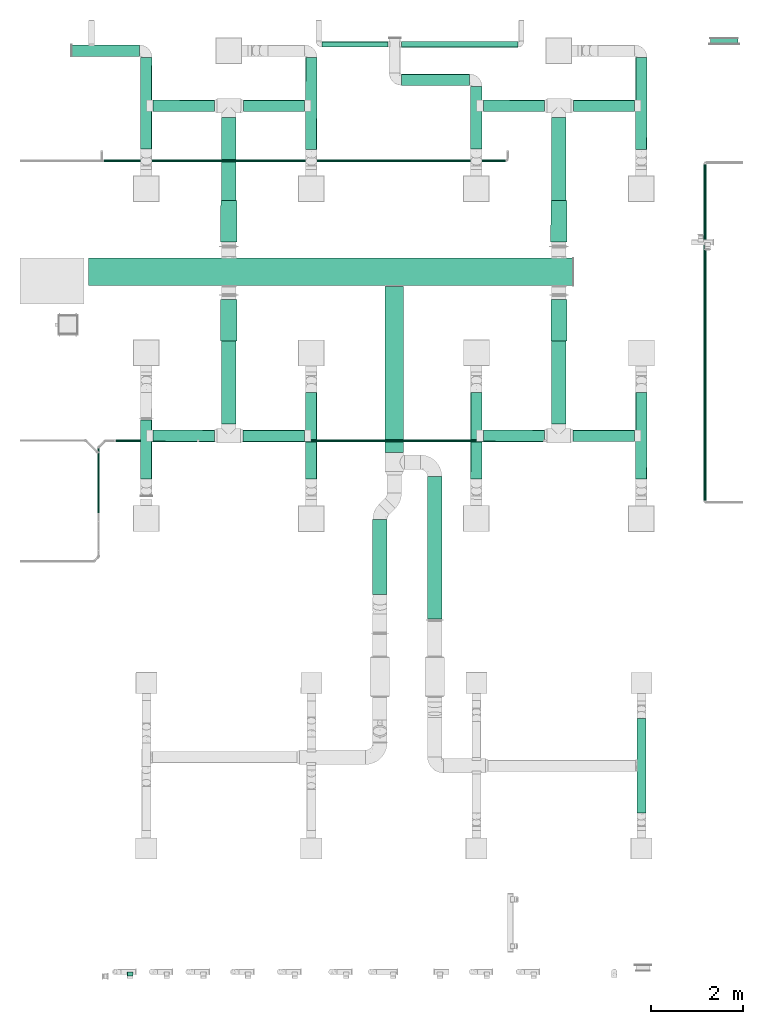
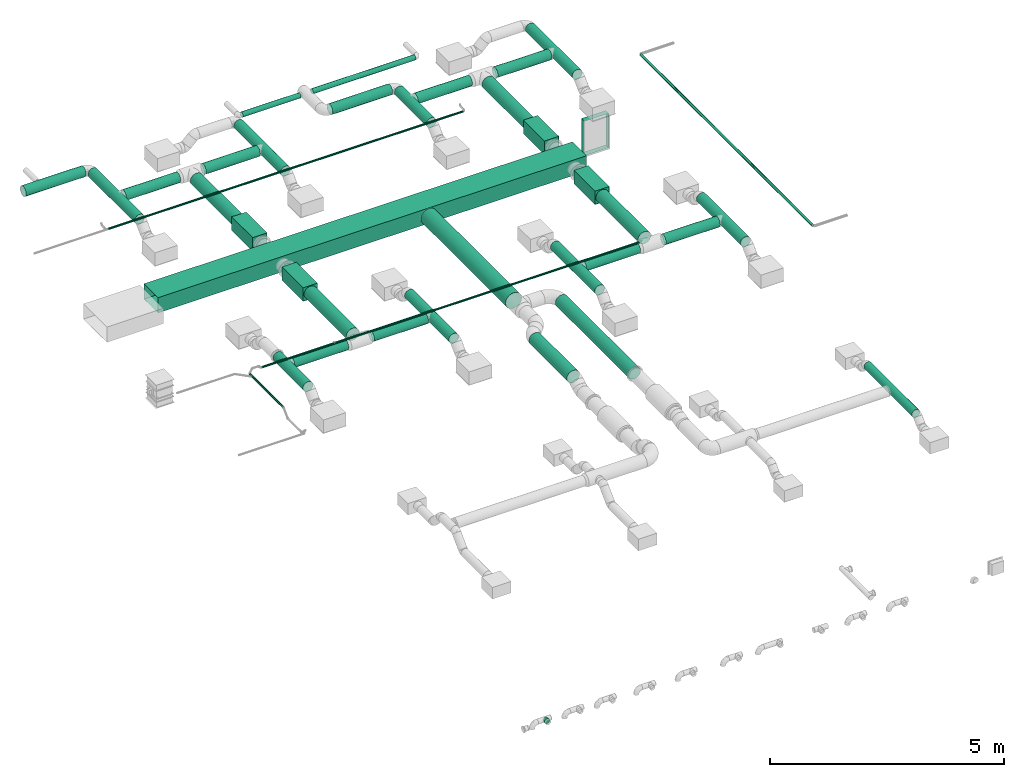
# One storey, part 3 of 63: 34 flow segments, 4 flow treatment devices, 1 flow fitting.
"""IFC2X3 building model written with IfcOpenShell, lengths in millimetres."""

from ifc_helpers import new_model, entity, si_unit, converted_unit, derived_unit, direction, frame, origin_with_axes, origin_2d_with_axis, place, context, subcontext, project, spatial, hollow_rectangle, hollow_circle, extrude, open_shell, surface_model, source, transform, mapped, type_object, element, save


model = new_model("IFC2X3")

# Units and contexts
model_context = context("Model", 3, precision=0.01, world=frame((0.0, 4.29681676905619e-09, 0.0)), true_north=direction((4.01073788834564e-13, 1.0)))
plan_context = context("Plan", 3, precision=0.01, world=frame((0.0, 4.29681676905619e-09, 0.0)), true_north=direction((4.01073788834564e-13, 1.0)))
body_context = subcontext(model_context, "Body", "Model", "MODEL_VIEW")
ifc_project = project(units=[converted_unit("PLANEANGLEUNIT", "DEGREE", entity("IfcPositiveLengthMeasure", 0.0174532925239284), si_unit("PLANEANGLEUNIT", "RADIAN"), dimensions=[0, 0, 0, 0, 0, 0, 0]), si_unit("AREAUNIT", "SQUARE_METRE"), si_unit("LENGTHUNIT", "METRE", prefix="MILLI"), si_unit("MASSUNIT", "GRAM", prefix="KILO"), si_unit("POWERUNIT", "WATT"), si_unit("PRESSUREUNIT", "PASCAL"), si_unit("FORCEUNIT", "NEWTON", prefix="KILO"), si_unit("ELECTRICVOLTAGEUNIT", "VOLT"), si_unit("ELECTRICCURRENTUNIT", "AMPERE"), si_unit("THERMODYNAMICTEMPERATUREUNIT", "DEGREE_CELSIUS"), si_unit("TIMEUNIT", "SECOND"), si_unit("VOLUMEUNIT", "CUBIC_METRE"), derived_unit("LINEARVELOCITYUNIT", [(si_unit("LENGTHUNIT", "METRE"), 1), (si_unit("TIMEUNIT", "SECOND"), -1)]), derived_unit("VOLUMETRICFLOWRATEUNIT", [(si_unit("VOLUMEUNIT", "CUBIC_METRE"), 1), (si_unit("TIMEUNIT", "SECOND"), -1)]), derived_unit("THERMALTRANSMITTANCEUNIT", [(si_unit("POWERUNIT", "WATT"), 1), (si_unit("THERMODYNAMICTEMPERATUREUNIT", "KELVIN"), -1), (si_unit("AREAUNIT", "SQUARE_METRE"), -1)]), derived_unit("SOUNDPRESSUREUNIT", [(si_unit("PRESSUREUNIT", "PASCAL"), 1)])], contexts=[model_context, plan_context])

# Site, building, storey
site_placement = place(None, frame((0.0, -4.29681676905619e-09, 0.0), z_axis=(0.0, 0.0, 1.0), x_axis=(1.0, 0.0, 0.0)))
site = spatial("IfcSite", under=ifc_project, at=site_placement, CompositionType="ELEMENT")
building_placement = place(site_placement, frame((0.0, 4.29681676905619e-09, 0.0), z_axis=(0.0, 0.0, 1.0), x_axis=(1.0, 0.0, 0.0)))
building = spatial("IfcBuilding", under=site, at=building_placement, Name="mc-building", CompositionType="ELEMENT")
storey_placement = place(building_placement, frame((0.0, 0.0, 210900.0), z_axis=(0.0, 0.0, 1.0), x_axis=(1.0, 0.0, 0.0)))
storey = spatial("IfcBuildingStorey", under=building, at=storey_placement, Name="Nivå F", CompositionType="ELEMENT", Elevation=210900.0)

# Flow fitting
duct_fitting_type = type_object("IfcDuctFittingType", Name="magicirc_tapoutlet_001", PredefinedType="CONNECTOR")
shared_shape_1 = source(origin_with_axes(), body_context, "Body", "SurfaceModel", [
    surface_model("IfcShellBasedSurfaceModel", [(25.0, 0.0, -62.5), (25.0, -31.25, -54.12659), (25.0, -16.17619, -60.37037), (25.0, 44.19417, -44.19417), (25.0, 62.5, 0.0), (25.0, 31.25, -54.12659), (25.0, 54.12659, -31.25), (25.0, -62.5, 0.0), (25.0, -60.37037, -16.17619), (25.0, -60.37037, 16.17619), (25.0, 16.17619, -60.37037), (25.0, -44.19417, -44.19417), (25.0, -54.12659, -31.25), (25.0, 60.37037, -16.17619), (25.0, 60.37037, 16.17619), (25.0, 54.12659, 31.25), (25.0, 44.19417, 44.19417), (25.0, 31.25, 54.12659), (25.0, 0.0, 62.5), (25.0, 16.17619, 60.37037), (25.0, -44.19417, 44.19417), (25.0, -54.12659, 31.25), (25.0, -16.17619, 60.37037), (25.0, -31.25, 54.12659), (0.0, 0.0, 62.5), (0.0, 16.17619, 60.37037), (0.0, 31.25, 54.12659), (0.0, 44.19417, 44.19417), (0.0, 54.12659, 31.25), (0.0, 60.37037, 16.17619), (0.0, 62.5, 0.0), (0.0, 60.37037, -16.17619), (0.0, 54.12659, -31.25), (0.0, 44.19417, -44.19417), (0.0, 31.25, -54.12659), (0.0, 16.17619, -60.37037), (0.0, 0.0, -62.5), (0.0, -16.17619, -60.37037), (0.0, -31.25, -54.12659), (0.0, -44.19417, -44.19417), (0.0, -54.12659, -31.25), (0.0, -60.37037, -16.17619), (0.0, -62.5, 0.0), (0.0, -60.37037, 16.17619), (0.0, -54.12659, 31.25), (0.0, -44.19417, 44.19417), (0.0, -31.25, 54.12659), (0.0, -16.17619, 60.37037), (-56.404, -44.19417, -44.19417), (-56.404, -54.12659, -31.25), (-56.404, -62.5, 0.0), (-56.404, -31.25, -54.12659), (-56.404, 0.0, -62.5), (-56.404, 62.5, 0.0), (-56.404, 60.37037, -16.17619), (-56.404, 60.37037, 16.17619), (-56.404, -16.17619, -60.37037), (-56.404, 16.17619, -60.37037), (-56.404, 31.25, -54.12659), (-56.404, 44.19417, -44.19417), (-56.404, 54.12659, -31.25), (-56.404, -60.37037, 16.17619), (-56.404, -60.37037, -16.17619), (-56.404, 54.12659, 31.25), (-56.404, 44.19417, 44.19417), (-56.404, 16.17619, 60.37037), (-56.404, 31.25, 54.12659), (-56.404, -16.17619, 60.37037), (-56.404, -54.12659, 31.25), (-56.404, -44.19417, 44.19417), (-56.404, -31.25, 54.12659), (-56.404, 0.0, 62.5)], [open_shell([[[0, 1, 2]], [[3, 4, 5]], [[3, 6, 4]], [[7, 8, 9]], [[10, 4, 0]], [[5, 4, 10]], [[11, 0, 9]], [[0, 11, 1]], [[1, 2, 0]], [[12, 9, 8]], [[9, 12, 11]], [[8, 9, 7]], [[4, 6, 13]], [[14, 15, 0]], [[0, 15, 16]], [[0, 17, 18]], [[16, 17, 0]], [[17, 19, 18]], [[0, 20, 21]], [[21, 9, 0]], [[22, 23, 0]], [[23, 20, 0]], [[22, 0, 18]], [[4, 14, 0]], [[24, 18, 19]], [[25, 19, 17]], [[24, 19, 25]], [[26, 16, 27]], [[26, 25, 17]], [[16, 26, 17]], [[28, 15, 14]], [[29, 14, 4]], [[27, 15, 28]], [[29, 28, 14]], [[30, 29, 4]], [[15, 27, 16]], [[30, 4, 13]], [[31, 13, 6]], [[30, 13, 31]], [[32, 3, 33]], [[32, 31, 6]], [[3, 32, 6]], [[34, 5, 10]], [[35, 10, 0]], [[33, 5, 34]], [[35, 34, 10]], [[36, 35, 0]], [[5, 33, 3]], [[36, 0, 2]], [[37, 2, 1]], [[36, 2, 37]], [[38, 11, 39]], [[38, 37, 1]], [[11, 38, 1]], [[40, 12, 8]], [[41, 8, 7]], [[39, 12, 40]], [[41, 40, 8]], [[42, 41, 7]], [[12, 39, 11]], [[42, 7, 9]], [[43, 9, 21]], [[42, 9, 43]], [[44, 20, 45]], [[44, 43, 21]], [[20, 44, 21]], [[46, 23, 22]], [[47, 22, 18]], [[45, 23, 46]], [[47, 46, 22]], [[24, 47, 18]], [[23, 45, 20]], [[15, 0, 14]], [[15, 16, 0]], [[0, 16, 17]], [[18, 17, 19]], [[9, 0, 21]], [[0, 23, 20]], [[18, 22, 0]], [[14, 0, 4]], [[48, 49, 50]], [[48, 50, 51]], [[36, 37, 52]], [[52, 35, 36]], [[53, 54, 55]], [[52, 56, 57]], [[57, 55, 58]], [[59, 55, 60]], [[58, 55, 59]], [[57, 50, 61]], [[56, 51, 50]], [[62, 50, 49]], [[50, 57, 56]], [[54, 60, 55]], [[55, 57, 63]], [[64, 63, 57]], [[57, 65, 66]], [[57, 66, 64]], [[57, 67, 65]], [[68, 69, 57]], [[57, 61, 68]], [[69, 70, 57]], [[57, 70, 67]], [[67, 71, 65]], [[71, 24, 25]], [[66, 25, 26]], [[71, 25, 65]], [[65, 25, 66]], [[26, 64, 66]], [[26, 27, 64]], [[55, 28, 29]], [[53, 29, 30]], [[27, 63, 64]], [[27, 28, 63]], [[63, 28, 55]], [[29, 53, 55]], [[54, 30, 31]], [[60, 31, 32]], [[53, 30, 54]], [[54, 31, 60]], [[32, 59, 60]], [[32, 33, 59]], [[57, 34, 35]], [[33, 58, 59]], [[33, 34, 58]], [[58, 34, 57]], [[35, 52, 57]], [[37, 38, 51]], [[52, 37, 56]], [[48, 51, 38]], [[37, 51, 56]], [[38, 39, 48]], [[62, 40, 41]], [[50, 41, 42]], [[39, 49, 48]], [[39, 40, 49]], [[49, 40, 62]], [[41, 50, 62]], [[43, 44, 68]], [[42, 43, 61]], [[61, 50, 42]], [[68, 61, 43]], [[44, 69, 68]], [[44, 45, 69]], [[67, 46, 47]], [[71, 47, 24]], [[45, 70, 69]], [[45, 46, 70]], [[70, 46, 67]], [[47, 71, 67]], [[57, 63, 55]], [[57, 64, 63]], [[66, 57, 65]], [[66, 64, 57]], [[65, 57, 67]], [[68, 57, 61]]])]),
])
flow_fitting_placement = place(storey_placement, frame((522946.94464, 440830.46265, 2163.0), z_axis=(0.0, 0.0, -1.0), x_axis=(0.0, -1.0, 0.0)))
element("IfcFlowFitting", 1, at=flow_fitting_placement, inside=storey, type_object=duct_fitting_type, Name="magicirc_tapoutlet_001", context=body_context, shape_type="MappedRepresentation", body=[
    mapped(shared_shape_1, transform((0.0, 0.0, 0.0), scale=1.0)),
])

# Flow segments
duct_segment_type_1 = type_object("IfcDuctSegmentType", Name="KK002T - Spiro kanaler, Forsinket stål, korte bend", PredefinedType="RIGIDSEGMENT")
shared_shape_2 = source(origin_with_axes(), body_context, "Body", "SweptSolid", [
    extrude(hollow_circle(Radius=125.0, WallThickness=2.0, at=origin_2d_with_axis()), frame((0.0, 0.0, 0.0), z_axis=(1.0, 0.0, 0.0), x_axis=(0.0, 1.0, 0.0)), (0.0, 0.0, 1.0), 1334.8),
])
for number, where, z_axis, x_axis in (
    (2, (524786.90869, 452594.05843, 4200.0), (0.0, 0.0, 1.0), (-0.999999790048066, 0.000647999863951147, 0.0)),
    (3, (531989.54926, 452594.05843, 4200.0), (0.0, 0.0, 1.0), (-0.999999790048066, 0.000647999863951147, 0.0)),
    (4, (532619.9403, 459788.85046, 4200.0), (0.0, 0.0, 1.0), (0.999999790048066, -0.000647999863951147, 0.0)),
    (5, (525418.49658, 459788.85046, 4200.0), (0.0, 0.0, 1.0), (0.999999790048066, -0.000647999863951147, 0.0)),
):
    element("IfcFlowSegment", number, at=place(storey_placement, frame(where, z_axis=z_axis, x_axis=x_axis)), inside=storey, type_object=duct_segment_type_1, Name="KK002T - Spiro kanaler, Forsinket stål, korte bend", context=body_context, shape_type="MappedRepresentation", body=[
        mapped(shared_shape_2, transform((0.0, 0.0, 0.0), scale=1.0)),
    ])
shared_shape_3 = source(origin_with_axes(), body_context, "Body", "SweptSolid", [
    extrude(hollow_circle(Radius=125.0, WallThickness=2.0, at=origin_2d_with_axis()), frame((0.0, 0.0, 0.0), z_axis=(1.0, 0.0, 0.0), x_axis=(0.0, 1.0, 0.0)), (0.0, 0.0, 1.0), 1337.6),
])
for number, where, z_axis, x_axis in (
    (6, (525414.49186, 452593.65191, 4200.0), (0.0, 0.0, 1.0), (0.999999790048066, -0.000647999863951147, 0.0)),
    (7, (532617.13243, 452593.65191, 4200.0), (0.0, 0.0, 1.0), (0.999999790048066, -0.000647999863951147, 0.0)),
    (8, (531992.35713, 459789.25698, 4200.0), (0.0, 0.0, 1.0), (-0.999999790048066, 0.000647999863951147, 0.0)),
):
    element("IfcFlowSegment", number, at=place(storey_placement, frame(where, z_axis=z_axis, x_axis=x_axis)), inside=storey, type_object=duct_segment_type_1, Name="KK002T - Spiro kanaler, Forsinket stål, korte bend", context=body_context, shape_type="MappedRepresentation", body=[
        mapped(shared_shape_3, transform((0.0, 0.0, 0.0), scale=1.0)),
    ])
shared_shape_4 = source(origin_with_axes(), body_context, "Body", "SweptSolid", [
    extrude(hollow_circle(Radius=125.0, WallThickness=2.0, at=origin_2d_with_axis()), frame((0.0, 0.0, 0.0), z_axis=(1.0, 0.0, 0.0), x_axis=(0.0, 1.0, 0.0)), (0.0, 0.0, 1.0), 1894.5),
])
for number, where, z_axis, x_axis in (
    (9, (526901.48846, 451643.59231, 4200.0), (0.0, 0.0, 1.0), (0.000647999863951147, 0.999999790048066, 0.0)),
    (10, (530504.13338, 451645.92419, 4200.0), (0.0, 0.0, 1.0), (0.000647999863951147, 0.999999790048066, 0.0)),
    (11, (534104.12903, 451643.59231, 4200.0), (0.0, 0.0, 1.0), (0.000647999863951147, 0.999999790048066, 0.0)),
):
    element("IfcFlowSegment", number, at=place(storey_placement, frame(where, z_axis=z_axis, x_axis=x_axis)), inside=storey, type_object=duct_segment_type_1, Name="KK002T - Spiro kanaler, Forsinket stål, korte bend", context=body_context, shape_type="MappedRepresentation", body=[
        mapped(shared_shape_4, transform((0.0, 0.0, 0.0), scale=1.0)),
    ])
shared_shape_5 = source(origin_with_axes(), body_context, "Body", "SweptSolid", [
    extrude(hollow_circle(Radius=157.5, WallThickness=2.0, at=origin_2d_with_axis()), frame((0.0, 0.0, 0.0), z_axis=(1.0, 0.0, 0.0), x_axis=(0.0, 1.0, 0.0)), (0.0, 0.0, 1.0), 1811.0),
])
for number, where, z_axis, x_axis in (
    (12, (525100.86707, 452851.35511, 4200.0), (0.0, 0.0, 1.0), (0.000647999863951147, 0.999999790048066, 0.0)),
    (13, (532303.50764, 452851.35511, 4200.0), (0.0, 0.0, 1.0), (0.000647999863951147, 0.999999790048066, 0.0)),
    (14, (532305.98192, 459531.55377, 4200.0), (0.0, 0.0, 1.0), (-0.000647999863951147, -0.999999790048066, 0.0)),
    (15, (525104.5382, 459531.55377, 4200.0), (0.0, 0.0, 1.0), (-0.000647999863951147, -0.999999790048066, 0.0)),
):
    element("IfcFlowSegment", number, at=place(storey_placement, frame(where, z_axis=z_axis, x_axis=x_axis)), inside=storey, type_object=duct_segment_type_1, Name="KK002T - Spiro kanaler, Forsinket stål, korte bend", context=body_context, shape_type="MappedRepresentation", body=[
        mapped(shared_shape_5, transform((0.0, 0.0, 0.0), scale=1.0)),
    ])
shared_shape_6 = source(origin_with_axes(), body_context, "Body", "SweptSolid", [
    extrude(hollow_circle(Radius=125.0, WallThickness=2.0, at=origin_2d_with_axis()), frame((0.0, 0.0, 0.0), z_axis=(1.0, 0.0, 0.0), x_axis=(0.0, 1.0, 0.0)), (0.0, 0.0, 1.0), 1367.9),
])
flow_segment_1_placement = place(storey_placement, frame((530504.13338, 458844.81826, 4200.0), z_axis=(0.0, 0.0, 1.0), x_axis=(-2.69999999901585e-05, 0.9999999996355, 0.0)))
element("IfcFlowSegment", 16, at=flow_segment_1_placement, inside=storey, type_object=duct_segment_type_1, Name="KK002T - Spiro kanaler, Forsinket stål, korte bend", context=body_context, shape_type="MappedRepresentation", body=[
    mapped(shared_shape_6, transform((0.0, 0.0, 0.0), scale=1.0)),
])
duct_segment_type_2 = type_object("IfcDuctSegmentType", Name="KK002T - Rektangulære, Forsinket stål", PredefinedType="RIGIDSEGMENT")
shared_shape_7 = source(origin_with_axes(), body_context, "Body", "SweptSolid", [
    extrude(hollow_rectangle(XDim=600.0, YDim=400.0, WallThickness=2.0, at=origin_2d_with_axis()), frame((0.0, 0.0, 0.0), z_axis=(1.0, 0.0, 0.0), x_axis=(0.0, 1.0, 0.0)), (0.0, 0.0, 1.0), 10580.1),
])
flow_segment_2_placement = place(storey_placement, frame((522038.5682, 456169.0, 4200.0), z_axis=(0.0, 0.0, 1.0), x_axis=(1.0, 0.0, 0.0)))
element("IfcFlowSegment", 17, at=flow_segment_2_placement, inside=storey, type_object=duct_segment_type_2, Name="KK002T - Rektangulære, Forsinket stål", context=body_context, shape_type="MappedRepresentation", body=[
    mapped(shared_shape_7, transform((0.0, 0.0, 0.0), scale=1.0)),
])
shared_shape_8 = source(origin_with_axes(), body_context, "Body", "SweptSolid", [
    extrude(hollow_circle(Radius=125.0, WallThickness=2.0, at=origin_2d_with_axis()), frame((0.0, 0.0, 0.0), z_axis=(1.0, 0.0, 0.0), x_axis=(0.0, 1.0, 0.0)), (0.0, 0.0, 1.0), 1480.0),
])
for number, where, z_axis, x_axis in (
    (18, (530354.09711, 460362.68623, 4200.0), (0.0, 0.0, 1.0), (-1.0, 0.0, 0.0)),
    (19, (523152.65339, 460995.76875, 4200.0), (0.0, 0.0, 1.0), (-1.0, 0.0, 0.0)),
):
    element("IfcFlowSegment", number, at=place(storey_placement, frame(where, z_axis=z_axis, x_axis=x_axis)), inside=storey, type_object=duct_segment_type_1, Name="KK002T - Spiro kanaler, Forsinket stål, korte bend", context=body_context, shape_type="MappedRepresentation", body=[
        mapped(shared_shape_8, transform((0.0, 0.0, 0.0), scale=1.0)),
    ])
shared_shape_9 = source(origin_with_axes(), body_context, "Body", "SweptSolid", [
    extrude(hollow_circle(Radius=125.0, WallThickness=2.0, at=origin_2d_with_axis()), frame((0.0, 0.0, 0.0), z_axis=(1.0, 0.0, 0.0), x_axis=(0.0, 1.0, 0.0)), (0.0, 0.0, 1.0), 2002.9),
])
for number, where, z_axis, x_axis in (
    (20, (534104.12903, 458842.48638, 4200.0), (0.0, 0.0, 1.0), (0.000647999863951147, 0.999999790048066, 0.0)),
    (21, (526902.6853, 458842.48638, 4200.0), (0.0, 0.0, 1.0), (0.000647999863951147, 0.999999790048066, 0.0)),
):
    element("IfcFlowSegment", number, at=place(storey_placement, frame(where, z_axis=z_axis, x_axis=x_axis)), inside=storey, type_object=duct_segment_type_1, Name="KK002T - Spiro kanaler, Forsinket stål, korte bend", context=body_context, shape_type="MappedRepresentation", body=[
        mapped(shared_shape_9, transform((0.0, 0.0, 0.0), scale=1.0)),
    ])
shared_shape_10 = source(origin_with_axes(), body_context, "Body", "SweptSolid", [
    extrude(hollow_circle(Radius=125.0, WallThickness=2.0, at=origin_2d_with_axis()), frame((0.0, 0.0, 0.0), z_axis=(1.0, 0.0, 0.0), x_axis=(0.0, 1.0, 0.0)), (0.0, 0.0, 1.0), 1338.9),
])
flow_segment_3_placement = place(storey_placement, frame((524790.9134, 459789.25698, 4200.0), z_axis=(0.0, 0.0, 1.0), x_axis=(-0.999999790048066, 0.000647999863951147, 0.0)))
element("IfcFlowSegment", 22, at=flow_segment_3_placement, inside=storey, type_object=duct_segment_type_1, Name="KK002T - Spiro kanaler, Forsinket stål, korte bend", context=body_context, shape_type="MappedRepresentation", body=[
    mapped(shared_shape_10, transform((0.0, 0.0, 0.0), scale=1.0)),
])
shared_shape_11 = source(origin_with_axes(), body_context, "Body", "SweptSolid", [
    extrude(hollow_circle(Radius=125.0, WallThickness=2.0, at=origin_2d_with_axis()), frame((0.0, 0.0, 0.0), z_axis=(1.0, 0.0, 0.0), x_axis=(0.0, 1.0, 0.0)), (0.0, 0.0, 1.0), 2001.0),
])
flow_segment_4_placement = place(storey_placement, frame((523301.35728, 458844.81912, 4200.0), z_axis=(0.0, 0.0, 1.0), x_axis=(0.000647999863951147, 0.999999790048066, 0.0)))
element("IfcFlowSegment", 23, at=flow_segment_4_placement, inside=storey, type_object=duct_segment_type_1, Name="KK002T - Spiro kanaler, Forsinket stål, korte bend", context=body_context, shape_type="MappedRepresentation", body=[
    mapped(shared_shape_11, transform((0.0, 0.0, 0.0), scale=1.0)),
])
shared_shape_12 = source(origin_with_axes(), body_context, "Body", "SweptSolid", [
    extrude(hollow_circle(Radius=62.5, WallThickness=2.0, at=origin_2d_with_axis()), frame((0.0, 0.0, 0.0), z_axis=(1.0, 0.0, 0.0), x_axis=(0.0, 1.0, 0.0)), (0.0, 0.0, 1.0), 2535.0),
])
flow_segment_5_placement = place(storey_placement, frame((528874.09314, 461130.9708, 4200.0), z_axis=(0.0, 0.0, 1.0), x_axis=(1.0, 0.0, 0.0)))
element("IfcFlowSegment", 24, at=flow_segment_5_placement, inside=storey, type_object=duct_segment_type_1, Name="KK002T - Spiro kanaler, Forsinket stål, korte bend", context=body_context, shape_type="MappedRepresentation", body=[
    mapped(shared_shape_12, transform((0.0, 0.0, 0.0), scale=1.0)),
])
shared_shape_13 = source(origin_with_axes(), body_context, "Body", "SweptSolid", [
    extrude(hollow_circle(Radius=62.5, WallThickness=2.0, at=origin_2d_with_axis()), frame((0.0, 0.0, 0.0), z_axis=(1.0, 0.0, 0.0), x_axis=(0.0, 1.0, 0.0)), (0.0, 0.0, 1.0), 1435.0),
])
flow_segment_6_placement = place(storey_placement, frame((528574.09314, 461132.06301, 4200.0), z_axis=(0.0, 0.0, 1.0), x_axis=(-1.0, 0.0, 0.0)))
element("IfcFlowSegment", 25, at=flow_segment_6_placement, inside=storey, type_object=duct_segment_type_1, Name="KK002T - Spiro kanaler, Forsinket stål, korte bend", context=body_context, shape_type="MappedRepresentation", body=[
    mapped(shared_shape_13, transform((0.0, 0.0, 0.0), scale=1.0)),
])
shared_shape_14 = source(origin_with_axes(), body_context, "Body", "SweptSolid", [
    extrude(hollow_rectangle(XDim=600.0, YDim=900.0, WallThickness=2.0, at=origin_2d_with_axis()), frame((0.0, 0.0, 0.0), z_axis=(1.0, 0.0, 0.0), x_axis=(0.0, 1.0, 0.0)), (0.0, 0.0, 1.0), 125.0),
])
flow_segment_7_placement = place(storey_placement, frame((535911.24375, 461144.06875, 600.0), z_axis=(0.0, 0.0, 1.0), x_axis=(0.0, 1.0, 0.0)))
element("IfcFlowSegment", 26, at=flow_segment_7_placement, inside=storey, type_object=duct_segment_type_2, Name="KK002T - Rektangulære, Forsinket stål", context=body_context, shape_type="MappedRepresentation", body=[
    mapped(shared_shape_14, transform((0.0, 0.0, 0.0), scale=1.0)),
])
duct_segment_type_3 = type_object("IfcDuctSegmentType", Name="Sirkulær kanal", PredefinedType="RIGIDSEGMENT")
shared_shape_15 = source(origin_with_axes(), body_context, "Body", "SweptSolid", [
    extrude(hollow_circle(Radius=25.0, WallThickness=2.0, at=origin_2d_with_axis()), frame((0.0, 0.0, 0.0), z_axis=(1.0, 0.0, 0.0), x_axis=(0.0, 1.0, 0.0)), (0.0, 0.0, 1.0), 1408.6),
])
flow_segment_8_placement = place(storey_placement, frame((522260.0, 452319.13248, 4480.0), z_axis=(0.0, 0.0, 1.0), x_axis=(0.0, -1.0, 0.0)))
element("IfcFlowSegment", 27, at=flow_segment_8_placement, inside=storey, type_object=duct_segment_type_3, Name="Sirkulær kanal", context=body_context, shape_type="MappedRepresentation", body=[
    mapped(shared_shape_15, transform((0.0, 0.0, 0.0), scale=1.0)),
])
shared_shape_16 = source(origin_with_axes(), body_context, "Body", "SweptSolid", [
    extrude(hollow_circle(Radius=25.0, WallThickness=2.0, at=origin_2d_with_axis()), frame((0.0, 0.0, 0.0), z_axis=(1.0, 0.0, 0.0), x_axis=(0.0, 1.0, 0.0)), (0.0, 0.0, 1.0), 9309.3),
])
flow_segment_9_placement = place(storey_placement, frame((522644.72461, 452482.42641, 4425.0), z_axis=(0.0, 0.0, 1.0), x_axis=(1.0, 0.0, 0.0)))
element("IfcFlowSegment", 28, at=flow_segment_9_placement, inside=storey, type_object=duct_segment_type_3, Name="Sirkulær kanal", context=body_context, shape_type="MappedRepresentation", body=[
    mapped(shared_shape_16, transform((0.0, 0.0, 0.0), scale=1.0)),
])
shared_shape_17 = source(origin_with_axes(), body_context, "Body", "SweptSolid", [
    extrude(hollow_circle(Radius=25.0, WallThickness=2.0, at=origin_2d_with_axis()), frame((0.0, 0.0, 0.0), z_axis=(1.0, 0.0, 0.0), x_axis=(0.0, 1.0, 0.0)), (0.0, 0.0, 1.0), 8755.7),
])
flow_segment_10_placement = place(storey_placement, frame((522380.0, 458590.0, 4425.0), z_axis=(0.0, 0.0, 1.0), x_axis=(1.0, 0.0, 0.0)))
element("IfcFlowSegment", 29, at=flow_segment_10_placement, inside=storey, type_object=duct_segment_type_3, Name="Sirkulær kanal", context=body_context, shape_type="MappedRepresentation", body=[
    mapped(shared_shape_17, transform((0.0, 0.0, 0.0), scale=1.0)),
])
duct_segment_type_4 = type_object("IfcDuctSegmentType", Name="Støvsuger", PredefinedType="RIGIDSEGMENT")
shared_shape_18 = source(origin_with_axes(), body_context, "Body", "SweptSolid", [
    extrude(hollow_circle(Radius=32.5, WallThickness=2.0, at=origin_2d_with_axis()), frame((0.0, 0.0, 0.0), z_axis=(1.0, 0.0, 0.0), x_axis=(0.0, 1.0, 0.0)), (0.0, 0.0, 1.0), 7333.8),
])
flow_segment_11_placement = place(storey_placement, frame((535489.30082, 451179.41456, 4425.0), z_axis=(0.0, 0.0, 1.0), x_axis=(0.0, 1.0, 0.0)))
element("IfcFlowSegment", 30, at=flow_segment_11_placement, inside=storey, type_object=duct_segment_type_4, Name="Støvsuger", context=body_context, shape_type="MappedRepresentation", body=[
    mapped(shared_shape_18, transform((0.0, 0.0, 0.0), scale=1.0)),
])
shared_shape_19 = source(origin_with_axes(), body_context, "Body", "SweptSolid", [
    extrude(hollow_circle(Radius=100.0, WallThickness=2.0, at=origin_2d_with_axis()), frame((0.0, 0.0, 0.0), z_axis=(1.0, 0.0, 0.0), x_axis=(0.0, 1.0, 0.0)), (0.0, 0.0, 1.0), 2057.0),
])
flow_segment_12_placement = place(storey_placement, frame((534104.07641, 444362.36594, 4131.20000000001), z_axis=(0.0, 0.0, 1.0), x_axis=(0.000647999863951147, 0.999999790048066, 0.0)))
element("IfcFlowSegment", 31, at=flow_segment_12_placement, inside=storey, type_object=duct_segment_type_1, Name="KK002T - Spiro kanaler, Forsinket stål, korte bend", context=body_context, shape_type="MappedRepresentation", body=[
    mapped(shared_shape_19, transform((0.0, 0.0, 0.0), scale=1.0)),
])
shared_shape_20 = source(origin_with_axes(), body_context, "Body", "SweptSolid", [
    extrude(hollow_circle(Radius=200.0, WallThickness=2.0, at=origin_2d_with_axis()), frame((0.0, 0.0, 0.0), z_axis=(1.0, 0.0, 0.0), x_axis=(0.0, 1.0, 0.0)), (0.0, 0.0, 1.0), 3626.8),
])
flow_segment_13_placement = place(storey_placement, frame((528713.30719, 455849.0, 4200.0), z_axis=(0.0, 0.0, 1.0), x_axis=(0.0, -1.0, 0.0)))
element("IfcFlowSegment", 32, at=flow_segment_13_placement, inside=storey, type_object=duct_segment_type_3, Name="Sirkulær kanal", context=body_context, shape_type="MappedRepresentation", body=[
    mapped(shared_shape_20, transform((0.0, 0.0, 0.0), scale=1.0)),
])
shared_shape_21 = source(origin_with_axes(), body_context, "Body", "SweptSolid", [
    extrude(hollow_circle(Radius=157.5, WallThickness=2.0, at=origin_2d_with_axis()), frame((0.0, 0.0, 0.0), z_axis=(1.0, 0.0, 0.0), x_axis=(0.0, 1.0, 0.0)), (0.0, 0.0, 1.0), 3102.2),
])
flow_segment_14_placement = place(storey_placement, frame((529594.70329, 448597.5, 4200.0), z_axis=(0.0, 0.0, 1.0), x_axis=(0.0, 1.0, 0.0)))
element("IfcFlowSegment", 33, at=flow_segment_14_placement, inside=storey, type_object=duct_segment_type_3, Name="Sirkulær kanal", context=body_context, shape_type="MappedRepresentation", body=[
    mapped(shared_shape_21, transform((0.0, 0.0, 0.0), scale=1.0)),
])
shared_shape_22 = source(origin_with_axes(), body_context, "Body", "SweptSolid", [
    extrude(hollow_circle(Radius=157.5, WallThickness=2.0, at=origin_2d_with_axis()), frame((0.0, 0.0, 0.0), z_axis=(1.0, 0.0, 0.0), x_axis=(0.0, 1.0, 0.0)), (0.0, 0.0, 1.0), 1630.1),
])
flow_segment_15_placement = place(storey_placement, frame((528399.04312, 450762.44408, 4200.0), z_axis=(0.0, 0.0, 1.0), x_axis=(0.0, -1.0, 0.0)))
element("IfcFlowSegment", 34, at=flow_segment_15_placement, inside=storey, type_object=duct_segment_type_3, Name="Sirkulær kanal", context=body_context, shape_type="MappedRepresentation", body=[
    mapped(shared_shape_22, transform((0.0, 0.0, 0.0), scale=1.0)),
])
shared_shape_23 = source(origin_with_axes(), body_context, "Body", "SweptSolid", [
    extrude(hollow_circle(Radius=125.0, WallThickness=2.0, at=origin_2d_with_axis()), frame((0.0, 0.0, 0.0), z_axis=(1.0, 0.0, 0.0), x_axis=(0.0, 1.0, 0.0)), (0.0, 0.0, 1.0), 1289.1),
])
flow_segment_16_placement = place(storey_placement, frame((523302.37963, 452935.00312, 4200.0), z_axis=(0.0, 0.0, 1.0), x_axis=(-0.00065799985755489, -0.99999978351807, 0.0)))
element("IfcFlowSegment", 35, at=flow_segment_16_placement, inside=storey, type_object=duct_segment_type_1, Name="KK002T - Spiro kanaler, Forsinket stål, korte bend", context=body_context, shape_type="MappedRepresentation", body=[
    mapped(shared_shape_23, transform((0.0, 0.0, 0.0), scale=1.0)),
])

# Flow treatment devices
duct_silencer_type = type_object("IfcDuctSilencerType", Name="LKR-315-900", PredefinedType="ROUND")
shared_shape_24 = source(origin_with_axes(), body_context, "Body", "SurfaceModel", [
    surface_model("IfcShellBasedSurfaceModel", [(-450.0, -177.49999, -177.60001), (-450.0, 177.49999, -177.60001), (450.0, 177.49999, -177.60001), (450.0, -177.49999, -177.60001), (450.0, -177.49999, -177.4), (450.0, 177.49999, -177.4), (-450.0, 177.49999, -177.4), (-450.0, -177.49999, -177.4), (-450.0, -177.49999, 177.4), (-450.0, 177.49999, 177.4), (450.0, 177.49999, 177.4), (450.0, -177.49999, 177.4), (450.0, -177.49999, 177.60001), (450.0, 177.49999, 177.60001), (-450.0, 177.49999, 177.60001), (-450.0, -177.49999, 177.60001), (-450.0, 177.4, -177.49999), (450.0, 177.4, -177.49999), (-450.0, 177.4, 177.49999), (450.0, 177.4, 177.49999), (-450.0, 177.60001, 177.49999), (450.0, 177.60001, 177.49999), (450.0, 177.60001, -177.49999), (-450.0, 177.60001, -177.49999), (-450.0, -177.60001, -177.49999), (450.0, -177.60001, -177.49999), (-450.0, -177.60001, 177.49999), (450.0, -177.60001, 177.49999), (-450.0, -177.4, 177.49999), (450.0, -177.4, 177.49999), (450.0, -177.4, -177.49999), (-450.0, -177.4, -177.49999), (439.9, 177.39998, 177.4), (439.9, 177.39998, -177.39998), (439.9, -177.4, -177.39998), (439.9, -177.4, 177.4), (440.09999, -177.4, 177.4), (440.09999, -177.4, -177.39998), (440.09999, 177.39998, 177.4), (440.09999, 177.39998, -177.39998), (-440.09999, 177.39998, 177.4), (-440.09999, 177.39998, -177.39998), (-440.09999, -177.4, -177.39998), (-440.09999, -177.4, 177.4), (-439.9, -177.4, 177.4), (-439.9, -177.4, -177.39998), (-439.9, 177.39998, 177.4), (-439.9, 177.39998, -177.39998)], [open_shell([[[0, 1, 2]], [[2, 3, 0]], [[4, 5, 6]], [[6, 7, 4]], [[1, 0, 7]], [[7, 6, 1]], [[0, 3, 4]], [[4, 7, 0]], [[3, 2, 5]], [[5, 4, 3]], [[2, 1, 6]], [[6, 5, 2]], [[8, 9, 10]], [[10, 11, 8]], [[12, 13, 14]], [[14, 15, 12]], [[9, 8, 15]], [[15, 14, 9]], [[8, 11, 12]], [[12, 15, 8]], [[11, 10, 13]], [[13, 12, 11]], [[10, 9, 14]], [[14, 13, 10]], [[16, 17, 18]], [[19, 18, 17]], [[20, 21, 22]], [[22, 23, 20]], [[19, 17, 22]], [[22, 21, 19]], [[18, 19, 21]], [[21, 20, 18]], [[16, 18, 20]], [[20, 23, 16]], [[17, 16, 23]], [[23, 22, 17]], [[24, 25, 26]], [[27, 26, 25]], [[28, 29, 30]], [[30, 31, 28]], [[27, 25, 30]], [[30, 29, 27]], [[26, 27, 29]], [[29, 28, 26]], [[24, 26, 28]], [[28, 31, 24]], [[25, 24, 31]], [[31, 30, 25]], [[32, 33, 34]], [[34, 35, 32]], [[36, 37, 38]], [[39, 38, 37]], [[34, 33, 39]], [[39, 37, 34]], [[35, 34, 37]], [[37, 36, 35]], [[32, 35, 36]], [[36, 38, 32]], [[33, 32, 38]], [[38, 39, 33]], [[40, 41, 42]], [[42, 43, 40]], [[44, 45, 46]], [[47, 46, 45]], [[42, 41, 47]], [[47, 45, 42]], [[43, 42, 45]], [[45, 44, 43]], [[40, 43, 44]], [[44, 46, 40]], [[41, 40, 46]], [[46, 47, 41]]])]),
])
for number, where, z_axis, x_axis in (
    (36, (525102.33162, 455112.35387, 4200.0), (0.0, 0.0, 1.0), (-0.000647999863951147, -0.999999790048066, 0.0)),
    (37, (532304.97219, 455112.35387, 4200.0), (0.0, 0.0, 1.0), (-0.000647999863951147, -0.999999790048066, 0.0)),
    (38, (532304.51737, 457270.55502, 4200.0), (0.0, 0.0, 1.0), (0.000647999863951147, 0.999999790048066, 0.0)),
    (39, (525103.07365, 457270.55502, 4200.0), (0.0, 0.0, 1.0), (0.000647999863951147, 0.999999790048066, 0.0)),
):
    element("IfcFlowTreatmentDevice", number, at=place(storey_placement, frame(where, z_axis=z_axis, x_axis=x_axis)), inside=storey, type_object=duct_silencer_type, Name="LKR-315-900", context=body_context, shape_type="MappedRepresentation", body=[
        mapped(shared_shape_24, transform((0.0, 0.0, 0.0), scale=1.0)),
    ])

save(model, "model.ifc")
